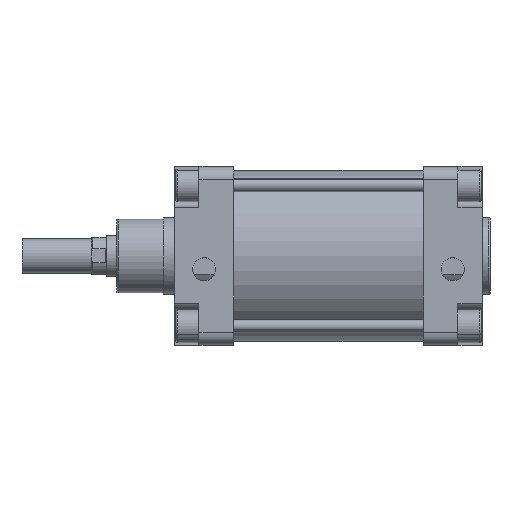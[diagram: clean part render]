
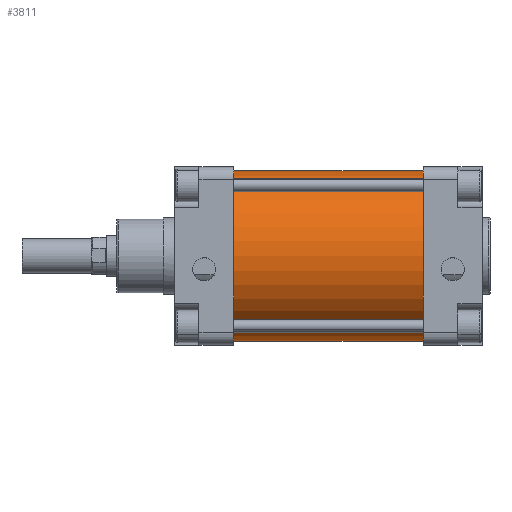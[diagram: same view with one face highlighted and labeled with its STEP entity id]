
A CAD part, top view. The second image highlights one B-rep face of the part: STEP entity #3811.
In plain terms, the highlighted cylindrical face has radius 66.5 mm (diameter 133 mm), a partial arc.
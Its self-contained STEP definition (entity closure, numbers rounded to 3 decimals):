
#3206=CARTESIAN_POINT('Vertex',(148.,-66.5,0.)) ;
#3208=CARTESIAN_POINT('Vertex',(148.,66.5,0.)) ;
#3211=CARTESIAN_POINT('Axis2P3D Location',(148.,0.,0.)) ;
#3781=CARTESIAN_POINT('Axis2P3D Location',(74.,0.,0.)) ;
#3786=CARTESIAN_POINT('Line Origine',(74.,66.5,0.)) ;
#3790=CARTESIAN_POINT('Vertex',(0.,66.5,0.)) ;
#3793=CARTESIAN_POINT('Axis2P3D Location',(0.,0.,0.)) ;
#3797=CARTESIAN_POINT('Vertex',(0.,-66.5,0.)) ;
#3800=CARTESIAN_POINT('Line Origine',(74.,-66.5,0.)) ;
#3212=DIRECTION('Axis2P3D Direction',(1.,0.,0.)) ;
#3782=DIRECTION('Axis2P3D Direction',(1.,0.,0.)) ;
#3783=DIRECTION('Axis2P3D XDirection',(0.,1.,0.)) ;
#3787=DIRECTION('Vector Direction',(1.,0.,0.)) ;
#3794=DIRECTION('Axis2P3D Direction',(1.,0.,0.)) ;
#3801=DIRECTION('Vector Direction',(1.,0.,0.)) ;
#3213=AXIS2_PLACEMENT_3D('Circle Axis2P3D',#3211,#3212,$) ;
#3784=AXIS2_PLACEMENT_3D('Cylinder Axis2P3D',#3781,#3782,#3783) ;
#3795=AXIS2_PLACEMENT_3D('Circle Axis2P3D',#3793,#3794,$) ;
#3806=ORIENTED_EDGE('',*,*,#3792,.F.) ;
#3807=ORIENTED_EDGE('',*,*,#3799,.T.) ;
#3808=ORIENTED_EDGE('',*,*,#3804,.T.) ;
#3809=ORIENTED_EDGE('',*,*,#3215,.F.) ;
#3788=VECTOR('Line Direction',#3787,1.) ;
#3802=VECTOR('Line Direction',#3801,1.) ;
#3811=ADVANCED_FACE('PartBody',(#3810),#3785,.T.) ;
#3214=CIRCLE('generated circle',#3213,66.5) ;
#3796=CIRCLE('generated circle',#3795,66.5) ;
#3785=CYLINDRICAL_SURFACE('generated cylinder',#3784,66.5) ;
#3215=EDGE_CURVE('',#3209,#3207,#3214,.T.) ;
#3792=EDGE_CURVE('',#3791,#3209,#3789,.T.) ;
#3799=EDGE_CURVE('',#3791,#3798,#3796,.T.) ;
#3804=EDGE_CURVE('',#3798,#3207,#3803,.T.) ;
#3805=EDGE_LOOP('',(#3806,#3807,#3808,#3809)) ;
#3810=FACE_OUTER_BOUND('',#3805,.T.) ;
#3789=LINE('Line',#3786,#3788) ;
#3803=LINE('Line',#3800,#3802) ;
#3207=VERTEX_POINT('',#3206) ;
#3209=VERTEX_POINT('',#3208) ;
#3791=VERTEX_POINT('',#3790) ;
#3798=VERTEX_POINT('',#3797) ;
